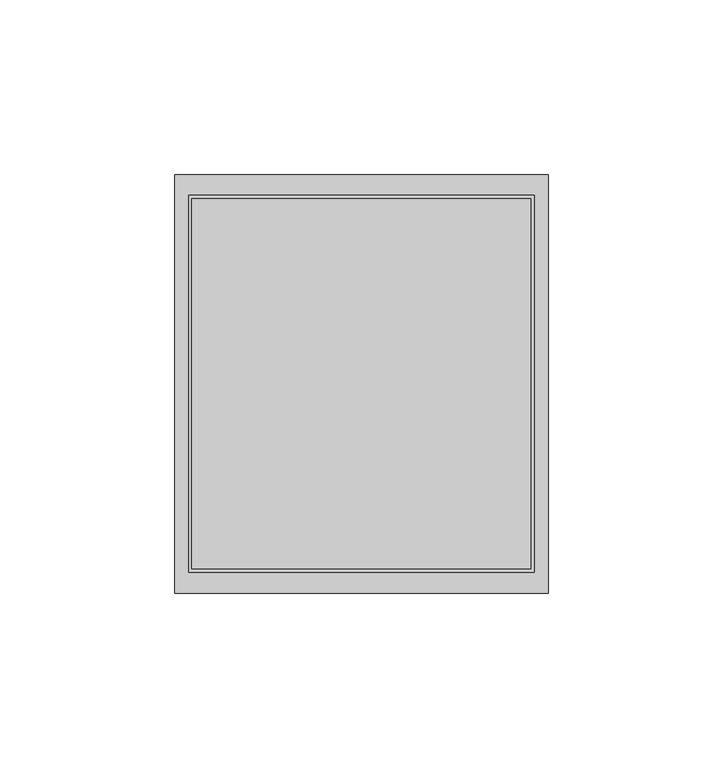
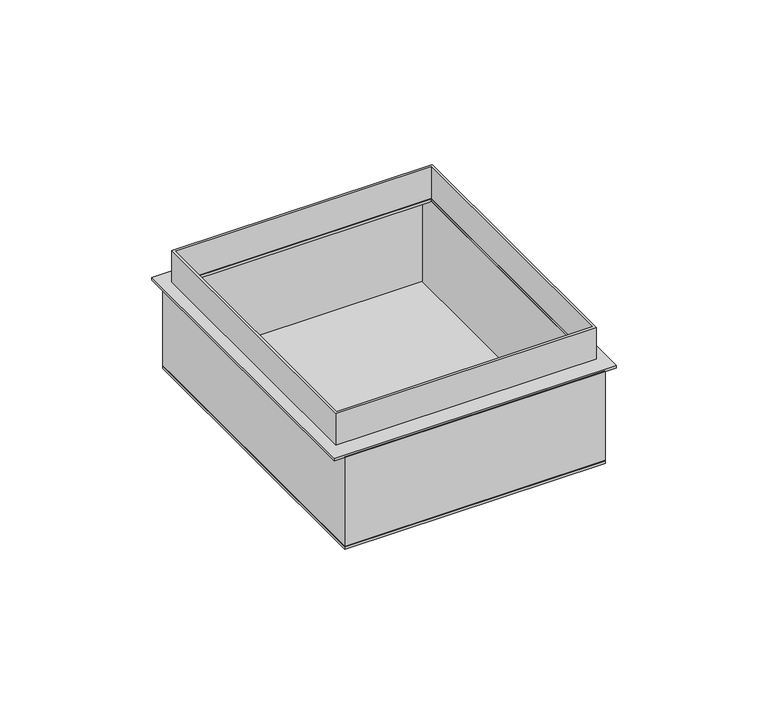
"""IFC4 building model written with IfcOpenShell, lengths in millimetres: proxy geometry, 00-Scatola da incasso : Scatola 6 moduli quadrata."""

from ifc_helpers import new_model, si_unit, frame, origin, place, context, project, spatial, polyline, outline, extrude, source, transform, mapped, element, save


def electrical_fixtures_8e233672(model_context):
    return source(origin(), model_context, "Body", "SweptSolid", [
        extrude(outline(polyline([(49.5, -60.0), (-49.5, -60.0), (-49.5, 60.0), (49.5, 60.0), (49.5, -60.0)])), frame((0.0, 0.0, -51.0), z_axis=(0.0, 0.0, 1.0), x_axis=(1.0, 0.0, 0.0)), (0.0, 0.0, 1.0), 1.0),
        extrude(outline(polyline([(49.5, -60.0), (-49.5, -60.0), (-49.5, 60.0), (49.5, 60.0), (49.5, -60.0)]), holes=[polyline([(-48.5, 59.0), (-48.5, -59.0), (48.5, -59.0), (48.5, 59.0), (-48.5, 59.0)])]), frame((0.0, 0.0, -50.0), z_axis=(0.0, 0.0, 1.0), x_axis=(1.0, 0.0, 0.0)), (0.0, 0.0, 1.0), 36.0),
        extrude(outline(polyline([(53.5, -60.0), (-53.5, -60.0), (-53.5, 60.0), (53.5, 60.0), (53.5, -60.0)]), holes=[polyline([(48.5, -53.0), (48.5, 53.0), (-48.5, 53.0), (-48.5, -53.0), (48.5, -53.0)])]), frame((0.0, 0.0, -14.0), z_axis=(0.0, 0.0, 1.0), x_axis=(1.0, 0.0, 0.0)), (0.0, 0.0, 1.0), 1.0),
        extrude(outline(polyline([(49.5, -54.0), (-49.5, -54.0), (-49.5, 54.0), (49.5, 54.0), (49.5, -54.0)]), holes=[polyline([(-48.5, 53.0), (-48.5, -53.0), (48.5, -53.0), (48.5, 53.0), (-48.5, 53.0)])]), frame((0.0, 0.0, -13.0), z_axis=(0.0, 0.0, 1.0), x_axis=(1.0, 0.0, 0.0)), (0.0, 0.0, 1.0), 13.0),
    ])


if __name__ == "__main__":
    model = new_model("IFC4")
    model_context = context("Model", 3, world=origin())
    ifc_project = project(units=[si_unit("LENGTHUNIT", "METRE", prefix="MILLI")], contexts=[model_context])
    site = spatial("IfcSite", under=ifc_project)
    building = spatial("IfcBuilding", under=site)
    placement = place(None, origin())
    electrical_fixtures_shape = electrical_fixtures_8e233672(model_context)
    element("IfcBuildingElementProxy", 1, Name="00-Scatola da incasso : Scatola 6 moduli quadrata", ObjectType="00-Scatola da incasso : Scatola 6 moduli quadrata", at=placement, inside=building, context=model_context, shape_type="MappedRepresentation", body=[
        mapped(electrical_fixtures_shape, transform((0.0, 0.0, 0.0), x_axis=(1.0, 0.0, 0.0), y_axis=(0.0, 1.0, 0.0), z_axis=(0.0, 0.0, 1.0))),
    ])
    save(model, "model.ifc")
